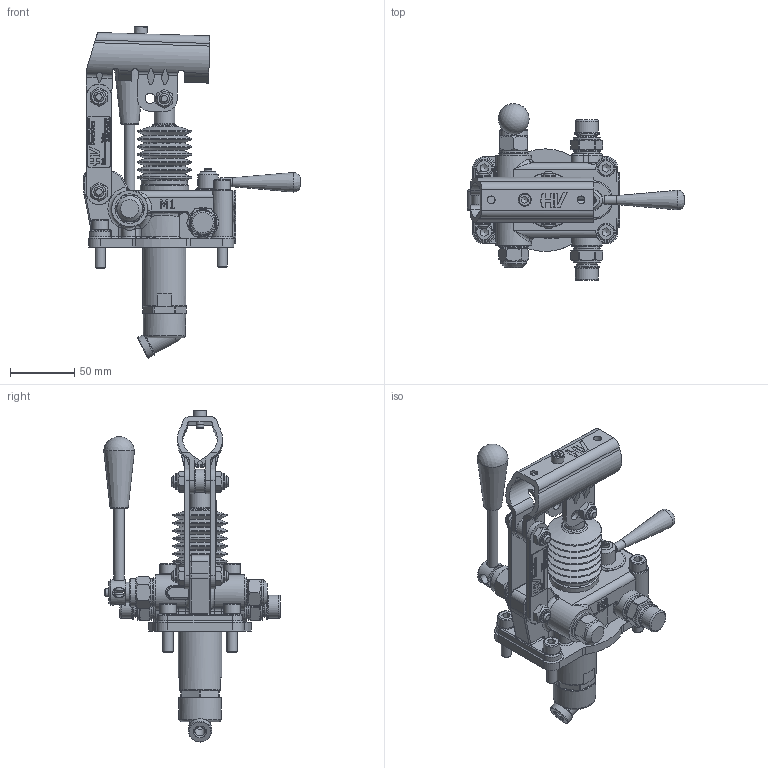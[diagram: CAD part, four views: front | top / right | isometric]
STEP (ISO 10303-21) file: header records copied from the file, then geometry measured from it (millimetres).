
FILE_DESCRIPTION((''),'2;1');
FILE_NAME('G:\HV_HYDRAULIC\AZIENDA_HV_HYDRAULIC\ARCHIVIO_DISEGNI\5_PRODOTTI_FINITI\1_POMPE_MANUALI\6054_PMD_6\6054.0053_PMD_6_dna-byA-L-s_(HV)\6054.0053.stp','2024-02-29T15:36:03',('christian.scardovi'),(''),'Autodesk Inventor 2013','Autodesk Inventor 2013','');
FILE_SCHEMA(('AUTOMOTIVE_DESIGN { 1 0 10303 214 1 1 1 1 }'));
Length unit declared in the file: millimetre
Products named in the file (1): 6054.0053
Bounding box: 169 x 137.49 x 258.54 mm (x, y, z)
Surface area: 145588.8 mm2
Topology: 2 solids, 3 shells, 1660 faces, 4179 edges, 2644 vertices
Faces by surface type: plane 786, cylinder 353, cone 194, bspline 185, torus 127, sphere 15
Full cylindrical faces by diameter (mm): 4 x2, 4.917 x2, 5 x8, 6 x8, 6.5 x1, 7 x1, 8 x18, 8.566 x1, 9 x4, 9.2 x1, 10 x5, 11.05 x6, 11.445 x2, 12 x5, 13 x4, 13.2 x1, 14 x4, 14.95 x3, 15 x2, 15.9 x2, 16 x6, 16.6 x4, 17 x1, 18 x7, 18.1 x1, 19 x2, 20 x5, 21 x6, 21.8 x2, 22 x1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
Entity records: 51601 total; most frequent: CARTESIAN_POINT 13389, ORIENTED_EDGE 7470, DIRECTION 7067, EDGE_CURVE 3735, AXIS2_PLACEMENT_3D 2571, VERTEX_POINT 2527, EDGE_LOOP 2148, VECTOR 1925
